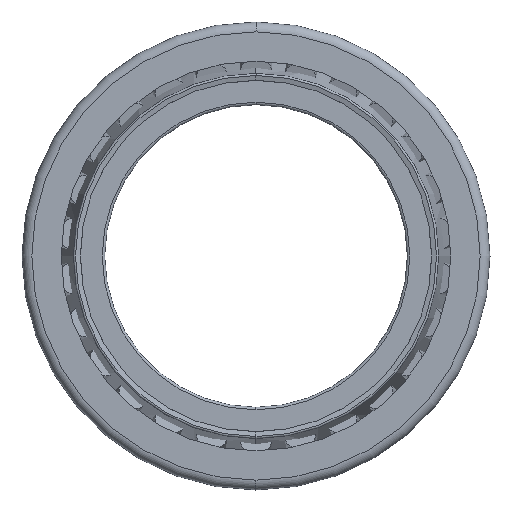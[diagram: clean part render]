
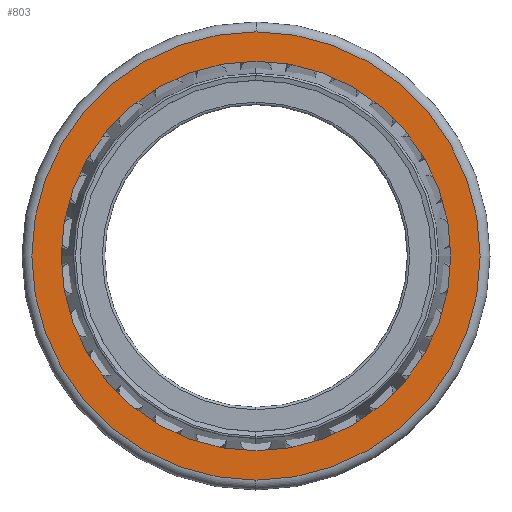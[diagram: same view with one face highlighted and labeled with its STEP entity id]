
A CAD part, left-side view. The second image highlights one B-rep face of the part: STEP entity #803.
In plain terms, the highlighted planar face has unit normal (-1, 0, 0).
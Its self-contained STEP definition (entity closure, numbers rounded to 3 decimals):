
#694=CARTESIAN_POINT('POINT27',(-0.396,
   0.,65.415));
#695=VERTEX_POINT('VERTEX27',#694);
#703=CARTESIAN_POINT('POINT28',(-0.396,
   0.,-65.415));
#704=VERTEX_POINT('VERTEX28',#703);
#711=CARTESIAN_POINT('POS48',(-0.396,0.,0.))
   ;
#712=DIRECTION('DIR81',(-1.,0.,0.));
#713=DIRECTION('DIR82',(0.,0.,1.));
#714=AXIS2_PLACEMENT_3D('AXIS34',#711,#712,#713);
#715=CIRCLE('ELLIPSE22',#714,65.415);
#716=EDGE_CURVE('EDGE46',#704,#695,#715,.T.);
#727=EDGE_CURVE('EDGE47',#695,#704,#715,.T.);
#779=ORIENTED_EDGE('COEDGE97',*,*,#727,.F.);
#780=ORIENTED_EDGE('COEDGE98',*,*,#716,.F.);
#781=EDGE_LOOP('NONE',(#779,#780));
#782=FACE_BOUND('LOOP1',#781,.T.);
#783=CARTESIAN_POINT('POINT31',(-0.396,
   0.,75.279));
#784=VERTEX_POINT('VERTEX31',#783);
#785=CARTESIAN_POINT('POINT32',(-0.396,
   0.,-75.279));
#786=VERTEX_POINT('VERTEX32',#785);
#787=CARTESIAN_POINT('POS55',(-0.396,0.,0.))
   ;
#788=DIRECTION('DIR93',(-1.,0.,0.));
#789=DIRECTION('DIR94',(0.,0.,1.));
#790=AXIS2_PLACEMENT_3D('AXIS39',#787,#788,#789);
#791=CIRCLE('ELLIPSE25',#790,75.279);
#792=EDGE_CURVE('EDGE52',#784,#786,#791,.T.);
#793=ORIENTED_EDGE('COEDGE99',*,*,#792,.T.);
#794=EDGE_CURVE('EDGE53',#786,#784,#791,.T.);
#795=ORIENTED_EDGE('COEDGE100',*,*,#794,.T.);
#796=EDGE_LOOP('NONE',(#793,#795));
#797=FACE_BOUND('LOOP1',#796,.T.);
#798=CARTESIAN_POINT('POS56',(-0.396,
   0.,70.347));
#799=DIRECTION('DIR95',(-1.,0.,0.));
#800=DIRECTION('DIR96',(0.,1.,0.));
#801=AXIS2_PLACEMENT_3D('AXIS40',#798,#799,#800);
#802=PLANE('PLANE4',#801);
#803=ADVANCED_FACE('FACE25',(#782,#797),#802,.T.);
